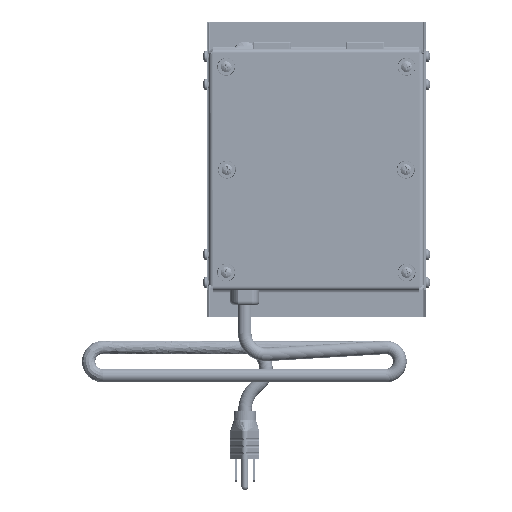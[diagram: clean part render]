
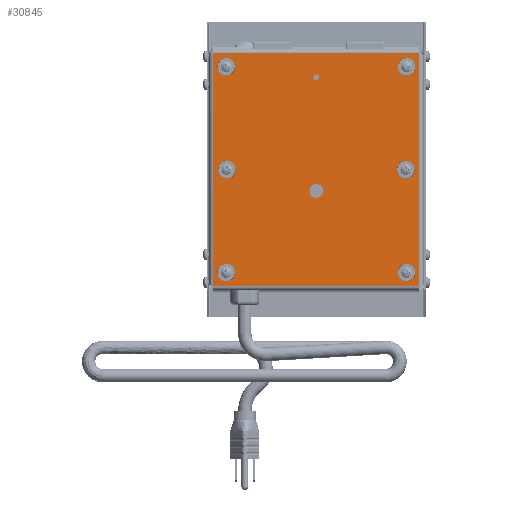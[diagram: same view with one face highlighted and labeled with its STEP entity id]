
A CAD part, front view. The second image highlights one B-rep face of the part: STEP entity #30845.
In plain terms, the highlighted planar face has unit normal (0, -1, 0).
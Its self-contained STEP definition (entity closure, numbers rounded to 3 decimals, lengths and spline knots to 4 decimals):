
#254=CIRCLE('',#32338,0.1065);
#256=CIRCLE('',#32341,0.1065);
#258=CIRCLE('',#32344,0.0815);
#260=CIRCLE('',#32347,0.1065);
#262=CIRCLE('',#32350,0.1065);
#264=CIRCLE('',#32353,0.1925);
#1925=FACE_BOUND('',#5899,.T.);
#1926=FACE_BOUND('',#5900,.T.);
#1927=FACE_BOUND('',#5901,.T.);
#1928=FACE_BOUND('',#5902,.T.);
#1929=FACE_BOUND('',#5903,.T.);
#1930=FACE_BOUND('',#5904,.T.);
#4259=FACE_OUTER_BOUND('',#5898,.T.);
#5898=EDGE_LOOP('',(#23931,#23932,#23933,#23934));
#5899=EDGE_LOOP('',(#23935));
#5900=EDGE_LOOP('',(#23936));
#5901=EDGE_LOOP('',(#23937));
#5902=EDGE_LOOP('',(#23938));
#5903=EDGE_LOOP('',(#23939));
#5904=EDGE_LOOP('',(#23940));
#9102=LINE('',#48055,#11768);
#9127=LINE('',#48282,#11793);
#9140=LINE('',#48389,#11806);
#9141=LINE('',#48391,#11807);
#11768=VECTOR('',#37003,0.3937);
#11793=VECTOR('',#37064,0.3937);
#11806=VECTOR('',#37111,0.3937);
#11807=VECTOR('',#37114,0.3937);
#14101=VERTEX_POINT('',#47670);
#14103=VERTEX_POINT('',#47676);
#14105=VERTEX_POINT('',#47682);
#14107=VERTEX_POINT('',#47688);
#14109=VERTEX_POINT('',#47694);
#14111=VERTEX_POINT('',#47700);
#14200=VERTEX_POINT('',#48046);
#14201=VERTEX_POINT('',#48054);
#14215=VERTEX_POINT('',#48273);
#14216=VERTEX_POINT('',#48281);
#17495=EDGE_CURVE('',#14101,#14101,#254,.T.);
#17498=EDGE_CURVE('',#14103,#14103,#256,.T.);
#17501=EDGE_CURVE('',#14105,#14105,#258,.T.);
#17504=EDGE_CURVE('',#14107,#14107,#260,.T.);
#17507=EDGE_CURVE('',#14109,#14109,#262,.T.);
#17510=EDGE_CURVE('',#14111,#14111,#264,.T.);
#17657=EDGE_CURVE('',#14201,#14200,#9102,.T.);
#17694=EDGE_CURVE('',#14216,#14215,#9127,.T.);
#17718=EDGE_CURVE('',#14215,#14201,#9140,.T.);
#17719=EDGE_CURVE('',#14200,#14216,#9141,.T.);
#23931=ORIENTED_EDGE('',*,*,#17657,.T.);
#23932=ORIENTED_EDGE('',*,*,#17719,.T.);
#23933=ORIENTED_EDGE('',*,*,#17694,.T.);
#23934=ORIENTED_EDGE('',*,*,#17718,.T.);
#23935=ORIENTED_EDGE('',*,*,#17495,.T.);
#23936=ORIENTED_EDGE('',*,*,#17498,.T.);
#23937=ORIENTED_EDGE('',*,*,#17501,.T.);
#23938=ORIENTED_EDGE('',*,*,#17504,.T.);
#23939=ORIENTED_EDGE('',*,*,#17507,.T.);
#23940=ORIENTED_EDGE('',*,*,#17510,.T.);
#29108=PLANE('',#32472);
#30845=ADVANCED_FACE('',(#4259,#1925,#1926,#1927,#1928,#1929,#1930),#29108,
 .F.);
#32338=AXIS2_PLACEMENT_3D('',#47671,#36686,#36687);
#32341=AXIS2_PLACEMENT_3D('',#47677,#36693,#36694);
#32344=AXIS2_PLACEMENT_3D('',#47683,#36700,#36701);
#32347=AXIS2_PLACEMENT_3D('',#47689,#36707,#36708);
#32350=AXIS2_PLACEMENT_3D('',#47695,#36714,#36715);
#32353=AXIS2_PLACEMENT_3D('',#47701,#36721,#36722);
#32472=AXIS2_PLACEMENT_3D('',#48390,#37112,#37113);
#36686=DIRECTION('center_axis',(0.,1.,0.));
#36687=DIRECTION('ref_axis',(-1.,0.,0.));
#36693=DIRECTION('center_axis',(0.,1.,0.));
#36694=DIRECTION('ref_axis',(-1.,0.,0.));
#36700=DIRECTION('center_axis',(0.,1.,0.));
#36701=DIRECTION('ref_axis',(-1.,0.,0.));
#36707=DIRECTION('center_axis',(0.,1.,0.));
#36708=DIRECTION('ref_axis',(-1.,0.,0.));
#36714=DIRECTION('center_axis',(0.,1.,0.));
#36715=DIRECTION('ref_axis',(-1.,0.,0.));
#36721=DIRECTION('center_axis',(0.,1.,0.));
#36722=DIRECTION('ref_axis',(-1.,0.,0.));
#37003=DIRECTION('',(0.,0.,-1.));
#37064=DIRECTION('',(0.,0.,1.));
#37111=DIRECTION('',(-1.,0.,0.));
#37112=DIRECTION('center_axis',(0.,1.,0.));
#37113=DIRECTION('ref_axis',(0.,0.,1.));
#37114=DIRECTION('',(1.,0.,0.));
#47670=CARTESIAN_POINT('',(-2.4135,0.,2.875));
#47671=CARTESIAN_POINT('Origin',(-2.52,0.,2.875));
#47676=CARTESIAN_POINT('',(2.6265,0.,-2.875));
#47677=CARTESIAN_POINT('Origin',(2.52,0.,-2.875));
#47682=CARTESIAN_POINT('',(0.0815,0.,2.578));
#47683=CARTESIAN_POINT('Origin',(0.,0.,2.578));
#47688=CARTESIAN_POINT('',(-2.4135,0.,-2.875));
#47689=CARTESIAN_POINT('Origin',(-2.52,0.,-2.875));
#47694=CARTESIAN_POINT('',(2.6265,0.,2.875));
#47695=CARTESIAN_POINT('Origin',(2.52,0.,2.875));
#47700=CARTESIAN_POINT('',(0.1925,0.,-0.596));
#47701=CARTESIAN_POINT('Origin',(0.,0.,-0.596));
#48046=CARTESIAN_POINT('',(-2.8804,0.,-3.2554));
#48054=CARTESIAN_POINT('',(-2.8804,0.,3.2554));
#48055=CARTESIAN_POINT('',(-2.8804,0.,1.6277));
#48273=CARTESIAN_POINT('',(2.8804,0.,3.2554));
#48281=CARTESIAN_POINT('',(2.8804,0.,-3.2554));
#48282=CARTESIAN_POINT('',(2.8804,0.,-1.6277));
#48389=CARTESIAN_POINT('',(1.5,0.,3.2554));
#48390=CARTESIAN_POINT('Origin',(0.,0.,0.));
#48391=CARTESIAN_POINT('',(-1.5,0.,-3.2554));
